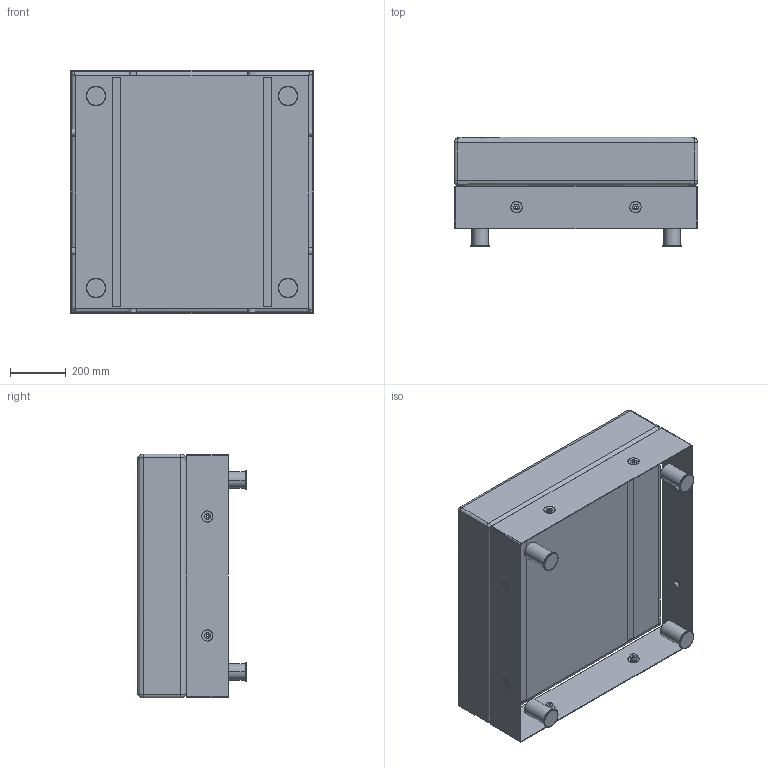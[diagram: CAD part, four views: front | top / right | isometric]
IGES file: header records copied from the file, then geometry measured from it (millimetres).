
Start section: SolidWorks IGES file using analytic representation for surfaces
Global section: file name: C:\Users\cersim\OneDrive - Gruppo Tecno\Desktop\MARKETING\TODO MODO - senza rullo.IGS; native system: SolidWorks 2020; preprocessor: SolidWorks 2020; author: cersim; date: 210608.094638; units: millimetre
Bounding box: 871 x 390 x 871 mm (x, y, z)
Surface area: 3275182.4 mm2 (no closed solid volume)
Topology: 0 solids, 0 shells, 238 faces, 5448 edges, 5440 vertices
Faces by surface type: bspline 130, revolution 108
